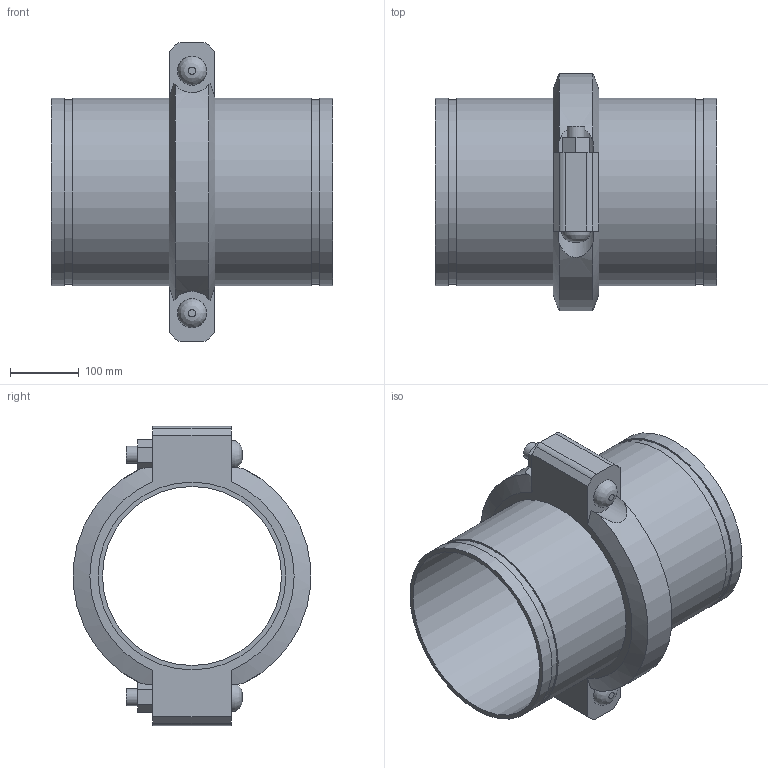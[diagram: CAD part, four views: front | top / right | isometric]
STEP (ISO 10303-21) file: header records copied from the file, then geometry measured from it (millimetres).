
FILE_DESCRIPTION(/* description */ ('VIC SS EXPANSION JOINT 1 COUPLING NEUTRAL STYLE 155P (OGS) (POTABLE WATER) ','CAx-IF Rec.Pracs.---Representation and Presentation of Product Manufacturing Information (PMI)---4.0---2014-10-13'),/* implementation_level */ '2;1');
FILE_NAME(/* name */ 'C:\Users\kkamble\AppData\Roaming\Autodesk\ApplicationPlugins\Victaulic.Temp\A585\Victaulic_SS_Expansion Joint_Neutral_1 Coupling_Style 155P (OGS)-Potable Water_1 Coup_Neut_10 (250).stp',/* time_stamp */ '2021-07-16T16:26:09+06:00',/* author */ ('kkamble'),/* organization */ ('Victaulic'),/* preprocessor_version */ 'ST-DEVELOPER v17.2',/* originating_system */ 'Autodesk Inventor 2019',/* authorisation */ '');
FILE_SCHEMA (('AP242_MANAGED_MODEL_BASED_3D_ENGINEERING_MIM_LF { 1 0 10303 442 1 1 4 }'));
Length unit declared in the file: inch
Products named in the file (3): 155P-10.0; Nipple-10.0; 077-10.0
Assembly tree (3 placements, depth 2):
  155P-10.0
    Nipple-10.0  x2
    077-10.0
Bounding box: 409.7 x 344.9 x 435.1 mm (x, y, z)
Volume: 4993307.9 mm3; surface area: 997980.7 mm2
Topology: 3 solids, 5 shells, 85 faces, 205 edges, 146 vertices
Faces by surface type: plane 48, cylinder 31, cone 4, bspline 2
Full cylindrical faces by diameter (mm): 25.4 x4, 27.432 x2, 260.35 x2, 264.16 x1, 268.275 x4, 273.05 x8
Entity records: 2564 total; most frequent: CARTESIAN_POINT 600, DIRECTION 381, ORIENTED_EDGE 350, EDGE_CURVE 175, AXIS2_PLACEMENT_3D 149, VERTEX_POINT 122, EDGE_LOOP 93, LINE 83
